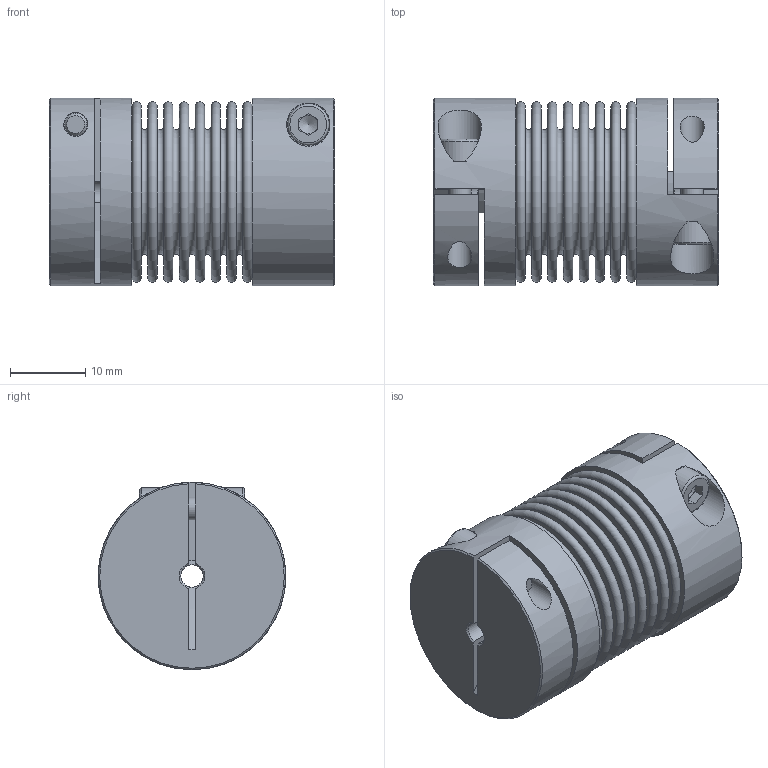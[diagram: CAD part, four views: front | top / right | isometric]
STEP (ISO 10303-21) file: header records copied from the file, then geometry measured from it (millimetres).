
FILE_DESCRIPTION(/* description */ ('STEP AP203'),/* implementation_level */ '2;1');
FILE_NAME(/* name */ 'KB2-20-38-3-3',/* time_stamp */ '2022-09-13T13:41:48+02:00',/* author */ ('License CC BY-ND 4.0'),/* organization */ ('CADENAS'),/* preprocessor_version */ 'ST-DEVELOPER v18.102',/* originating_system */ 'PARTsolutions',/* authorisation */ ' ');
FILE_SCHEMA (('CONFIG_CONTROL_DESIGN'));
Length unit declared in the file: millimetre
Products named in the file (1): KB2-20-38-3-3
Bounding box: 38 x 25 x 25 mm (x, y, z)
Volume: 10604 mm3; surface area: 13629 mm2
Topology: 1 solids, 1 shells, 144 faces, 306 edges, 200 vertices
Faces by surface type: plane 80, torus 32, cylinder 22, cone 10
Full cylindrical faces by diameter (mm): 3 x4, 3.2 x4, 5.5 x2, 17.46 x2, 25 x2
Entity records: 3636 total; most frequent: CARTESIAN_POINT 685, DIRECTION 640, ORIENTED_EDGE 476, AXIS2_PLACEMENT_3D 277, FACE_BOUND 244, EDGE_LOOP 242, EDGE_CURVE 238, VERTEX_POINT 186
